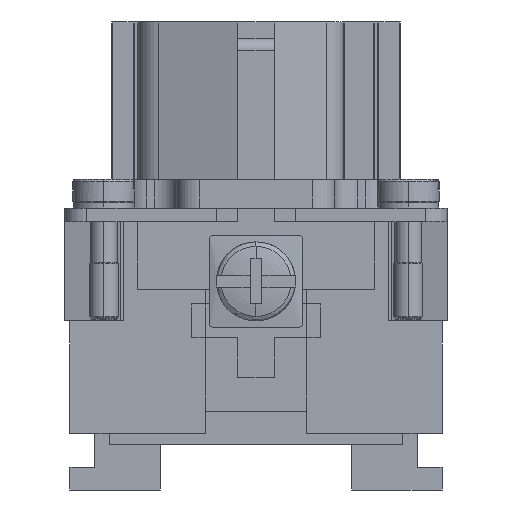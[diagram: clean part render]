
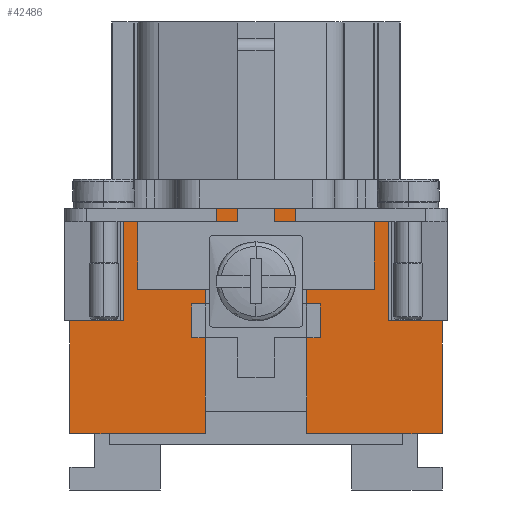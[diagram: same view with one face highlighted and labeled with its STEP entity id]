
A CAD part, left-side view. The second image highlights one B-rep face of the part: STEP entity #42486.
In plain terms, the highlighted planar face has unit normal (-1, 0, 0).
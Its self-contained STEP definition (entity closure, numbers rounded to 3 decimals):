
#562 = CARTESIAN_POINT ( 'NONE',  ( -44.9, 11.75, 0. ) ) ;
#599 = CARTESIAN_POINT ( 'NONE',  ( -44.9, 16.5, -10. ) ) ;
#2397 = DIRECTION ( 'NONE',  ( 0., 0., -1. ) ) ;
#3559 = CARTESIAN_POINT ( 'NONE',  ( -44.9, 16.5, 0. ) ) ;
#4361 = DIRECTION ( 'NONE',  ( -1., 0., 0. ) ) ;
#4776 = AXIS2_PLACEMENT_3D ( 'NONE', #62831, #4361, #72712 ) ;
#6272 = EDGE_CURVE ( 'NONE', #113201, #90735, #121619, .T. ) ;
#7530 = EDGE_CURVE ( 'NONE', #30155, #78399, #77125, .T. ) ;
#7920 = DIRECTION ( 'NONE',  ( 0., 1., 0. ) ) ;
#9076 = VECTOR ( 'NONE', #61617, 1000. ) ;
#12059 = FACE_OUTER_BOUND ( 'NONE', #112558, .T. ) ;
#13266 = ORIENTED_EDGE ( 'NONE', *, *, #34445, .T. ) ;
#15997 = VERTEX_POINT ( 'NONE', #44590 ) ;
#17752 = CARTESIAN_POINT ( 'NONE',  ( -44.9, -4.5, 0. ) ) ;
#18183 = DIRECTION ( 'NONE',  ( 0., 0., -1. ) ) ;
#18524 = CARTESIAN_POINT ( 'NONE',  ( -44.9, 16.5, -20. ) ) ;
#19491 = DIRECTION ( 'NONE',  ( 0., 0., 1. ) ) ;
#20435 = CARTESIAN_POINT ( 'NONE',  ( -44.9, -16.5, -20. ) ) ;
#23255 = PLANE ( 'NONE',  #4776 ) ;
#23687 = VECTOR ( 'NONE', #68219, 1000. ) ;
#27159 = CARTESIAN_POINT ( 'NONE',  ( -44.9, 11.75, -10. ) ) ;
#27162 = DIRECTION ( 'NONE',  ( 0., 1., 0. ) ) ;
#28025 = EDGE_CURVE ( 'NONE', #83002, #45835, #39513, .T. ) ;
#28210 = VECTOR ( 'NONE', #2397, 1000. ) ;
#30155 = VERTEX_POINT ( 'NONE', #20435 ) ;
#30213 = EDGE_CURVE ( 'NONE', #122767, #58589, #114351, .T. ) ;
#30742 = VERTEX_POINT ( 'NONE', #562 ) ;
#34445 = EDGE_CURVE ( 'NONE', #78399, #122767, #56389, .T. ) ;
#37151 = VERTEX_POINT ( 'NONE', #95566 ) ;
#38834 = ORIENTED_EDGE ( 'NONE', *, *, #115067, .T. ) ;
#39513 = LINE ( 'NONE', #95997, #85529 ) ;
#40413 = LINE ( 'NONE', #113083, #66408 ) ;
#41781 = CARTESIAN_POINT ( 'NONE',  ( -44.9, -4.5, -1.2 ) ) ;
#42486 = ADVANCED_FACE ( 'NONE', ( #12059 ), #23255, .T. ) ;
#44342 = CARTESIAN_POINT ( 'NONE',  ( -44.9, -11.75, 0. ) ) ;
#44590 = CARTESIAN_POINT ( 'NONE',  ( -44.9, 4.5, -20. ) ) ;
#45835 = VERTEX_POINT ( 'NONE', #57031 ) ;
#46801 = ORIENTED_EDGE ( 'NONE', *, *, #7530, .T. ) ;
#48105 = DIRECTION ( 'NONE',  ( 0., 0., 1. ) ) ;
#48317 = VECTOR ( 'NONE', #18183, 1000. ) ;
#48399 = ORIENTED_EDGE ( 'NONE', *, *, #30213, .T. ) ;
#51085 = VECTOR ( 'NONE', #80627, 1000. ) ;
#51883 = CARTESIAN_POINT ( 'NONE',  ( -44.9, -16.5, 0. ) ) ;
#54018 = LINE ( 'NONE', #109375, #28210 ) ;
#56389 = LINE ( 'NONE', #95516, #82501 ) ;
#57031 = CARTESIAN_POINT ( 'NONE',  ( -44.9, 4.5, -1.2 ) ) ;
#58589 = VERTEX_POINT ( 'NONE', #44342 ) ;
#61617 = DIRECTION ( 'NONE',  ( 0., 1., 0. ) ) ;
#62831 = CARTESIAN_POINT ( 'NONE',  ( -44.9, 16.5, 0. ) ) ;
#63673 = ORIENTED_EDGE ( 'NONE', *, *, #6272, .F. ) ;
#64194 = DIRECTION ( 'NONE',  ( 0., -1., 0. ) ) ;
#66408 = VECTOR ( 'NONE', #64194, 1000. ) ;
#66839 = CARTESIAN_POINT ( 'NONE',  ( -44.9, 16.5, -20. ) ) ;
#68126 = ORIENTED_EDGE ( 'NONE', *, *, #108698, .T. ) ;
#68148 = EDGE_CURVE ( 'NONE', #113201, #15997, #98635, .T. ) ;
#68219 = DIRECTION ( 'NONE',  ( 0., -1., 0. ) ) ;
#68692 = CARTESIAN_POINT ( 'NONE',  ( -44.9, 16.5, -10. ) ) ;
#68927 = DIRECTION ( 'NONE',  ( 0., 1., 0. ) ) ;
#69640 = VECTOR ( 'NONE', #110923, 1000. ) ;
#69878 = ORIENTED_EDGE ( 'NONE', *, *, #68148, .T. ) ;
#71411 = CARTESIAN_POINT ( 'NONE',  ( -44.9, -4.5, 0. ) ) ;
#72712 = DIRECTION ( 'NONE',  ( 0., 0., 1. ) ) ;
#74343 = LINE ( 'NONE', #17752, #48317 ) ;
#76344 = CARTESIAN_POINT ( 'NONE',  ( -44.9, -4.5, -20. ) ) ;
#77125 = LINE ( 'NONE', #51883, #51085 ) ;
#78399 = VERTEX_POINT ( 'NONE', #115433 ) ;
#78572 = VECTOR ( 'NONE', #68927, 1000. ) ;
#79784 = CARTESIAN_POINT ( 'NONE',  ( -44.9, -11.75, 0. ) ) ;
#80627 = DIRECTION ( 'NONE',  ( 0., 0., 1. ) ) ;
#80643 = DIRECTION ( 'NONE',  ( 0., 0., 1. ) ) ;
#81215 = VERTEX_POINT ( 'NONE', #113962 ) ;
#82501 = VECTOR ( 'NONE', #27162, 1000. ) ;
#83002 = VERTEX_POINT ( 'NONE', #41781 ) ;
#83470 = ORIENTED_EDGE ( 'NONE', *, *, #94754, .T. ) ;
#84049 = LINE ( 'NONE', #3559, #9076 ) ;
#85187 = ORIENTED_EDGE ( 'NONE', *, *, #109731, .T. ) ;
#85529 = VECTOR ( 'NONE', #7920, 1000. ) ;
#87595 = VERTEX_POINT ( 'NONE', #76344 ) ;
#88336 = VECTOR ( 'NONE', #80643, 1000. ) ;
#90456 = VERTEX_POINT ( 'NONE', #27159 ) ;
#90735 = VERTEX_POINT ( 'NONE', #101434 ) ;
#92668 = LINE ( 'NONE', #71411, #69640 ) ;
#94754 = EDGE_CURVE ( 'NONE', #83002, #81215, #74343, .T. ) ;
#95516 = CARTESIAN_POINT ( 'NONE',  ( -44.9, 16.5, -10. ) ) ;
#95566 = CARTESIAN_POINT ( 'NONE',  ( -44.9, 4.5, -18. ) ) ;
#95997 = CARTESIAN_POINT ( 'NONE',  ( -44.9, 0., -1.2 ) ) ;
#96612 = VECTOR ( 'NONE', #48105, 1000. ) ;
#97103 = ORIENTED_EDGE ( 'NONE', *, *, #102131, .T. ) ;
#98635 = LINE ( 'NONE', #126827, #23687 ) ;
#98755 = EDGE_CURVE ( 'NONE', #87595, #30155, #40413, .T. ) ;
#99734 = LINE ( 'NONE', #126357, #96612 ) ;
#101434 = CARTESIAN_POINT ( 'NONE',  ( -44.9, 16.5, -10. ) ) ;
#101585 = LINE ( 'NONE', #599, #78572 ) ;
#102131 = EDGE_CURVE ( 'NONE', #37151, #45835, #102459, .T. ) ;
#102188 = CARTESIAN_POINT ( 'NONE',  ( -44.9, -11.75, -10. ) ) ;
#102459 = LINE ( 'NONE', #107176, #125296 ) ;
#104858 = EDGE_CURVE ( 'NONE', #58589, #30742, #84049, .T. ) ;
#107176 = CARTESIAN_POINT ( 'NONE',  ( -44.9, 4.5, 0. ) ) ;
#108185 = ORIENTED_EDGE ( 'NONE', *, *, #104858, .T. ) ;
#108698 = EDGE_CURVE ( 'NONE', #81215, #87595, #92668, .T. ) ;
#109375 = CARTESIAN_POINT ( 'NONE',  ( -44.9, 11.75, 0. ) ) ;
#109731 = EDGE_CURVE ( 'NONE', #30742, #90456, #54018, .T. ) ;
#110923 = DIRECTION ( 'NONE',  ( 0., 0., -1. ) ) ;
#112558 = EDGE_LOOP ( 'NONE', ( #38834, #97103, #115510, #83470, #68126, #115737, #46801, #13266, #48399, #108185, #85187, #114246, #63673, #69878 ) ) ;
#113083 = CARTESIAN_POINT ( 'NONE',  ( -44.9, 16.5, -20. ) ) ;
#113201 = VERTEX_POINT ( 'NONE', #18524 ) ;
#113962 = CARTESIAN_POINT ( 'NONE',  ( -44.9, -4.5, -18. ) ) ;
#114246 = ORIENTED_EDGE ( 'NONE', *, *, #123431, .T. ) ;
#114351 = LINE ( 'NONE', #79784, #88336 ) ;
#115067 = EDGE_CURVE ( 'NONE', #15997, #37151, #99734, .T. ) ;
#115433 = CARTESIAN_POINT ( 'NONE',  ( -44.9, -16.5, -10. ) ) ;
#115510 = ORIENTED_EDGE ( 'NONE', *, *, #28025, .F. ) ;
#115737 = ORIENTED_EDGE ( 'NONE', *, *, #98755, .T. ) ;
#121619 = B_SPLINE_CURVE_WITH_KNOTS ( 'NONE', 1,
 ( #66839, #68692 ),
 .UNSPECIFIED., .F., .F.,
 ( 2, 2 ),
 ( 0., 1. ),
 .UNSPECIFIED. ) ;
#122767 = VERTEX_POINT ( 'NONE', #102188 ) ;
#123431 = EDGE_CURVE ( 'NONE', #90456, #90735, #101585, .T. ) ;
#125296 = VECTOR ( 'NONE', #19491, 1000. ) ;
#126357 = CARTESIAN_POINT ( 'NONE',  ( -44.9, 4.5, 0. ) ) ;
#126827 = CARTESIAN_POINT ( 'NONE',  ( -44.9, 16.5, -20. ) ) ;
